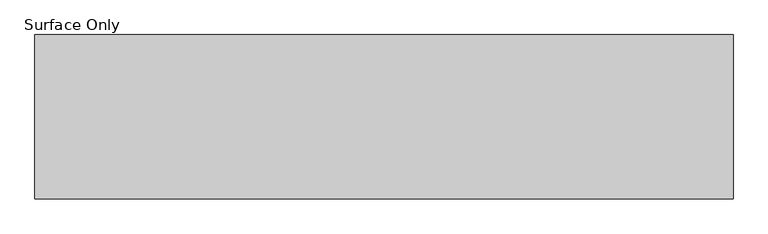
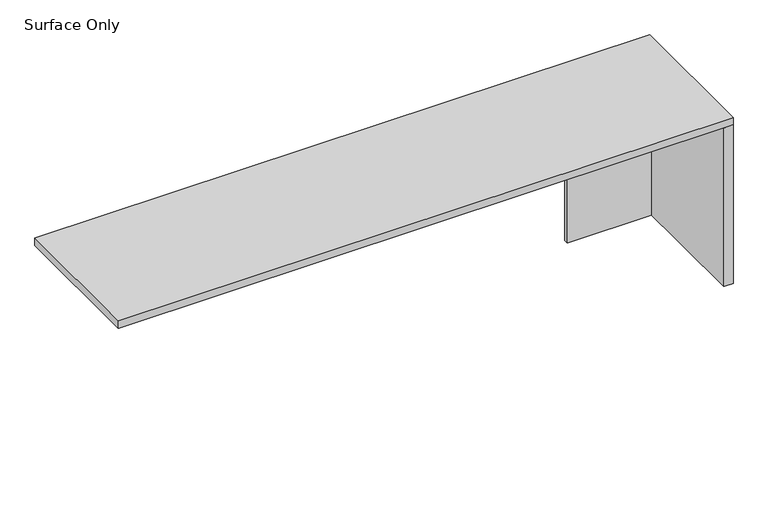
"""IFC4 building model written with IfcOpenShell, lengths in millimetres: furniture geometry, Haworth_Masters_Modular_Shell : Surface Only."""

from ifc_helpers import new_model, si_unit, frame, origin, origin_with_axes, place, context, project, spatial, polyline, outline, extrude, source, transform, mapped, element, save


def surface_only_265f41fe(model_context):
    return source(origin(), model_context, "Body", "SweptSolid", [
        extrude(outline(polyline([(2033.5875, -273.05), (2033.5875, -863.6), (1994.69375, -863.6), (1994.69375, -273.05), (2033.5875, -273.05)])), origin_with_axes(), (0.0, 0.0, 1.0), 708.025),
        extrude(outline(polyline([(1994.69375, -317.5), (1994.69375, -336.55), (1639.09375, -336.55), (1639.09375, -317.5), (1994.69375, -317.5)])), origin_with_axes(), (0.0, 0.0, 1.0), 708.025),
        extrude(outline(polyline([(-557.2125, -254.0), (2033.5875, -254.0), (2033.5875, -863.6), (-557.2125, -863.6), (-557.2125, -254.0)])), frame((0.0, 0.0, 708.025), z_axis=(0.0, 0.0, 1.0), x_axis=(1.0, 0.0, 0.0)), (0.0, 0.0, 1.0), 31.75),
    ])


if __name__ == "__main__":
    model = new_model("IFC4")
    model_context = context("Model", 3, world=origin())
    ifc_project = project(units=[si_unit("LENGTHUNIT", "METRE", prefix="MILLI")], contexts=[model_context])
    site = spatial("IfcSite", under=ifc_project)
    building = spatial("IfcBuilding", under=site)
    placement = place(None, origin())
    surface_only_shape = surface_only_265f41fe(model_context)
    element("IfcFurniture", 1, ObjectType="Haworth_Masters_Modular_Shell : Surface Only", at=placement, inside=building, context=model_context, shape_type="MappedRepresentation", body=[
        mapped(surface_only_shape, transform((0.0, 0.0, 0.0), x_axis=(1.0, 0.0, 0.0), y_axis=(0.0, 1.0, 0.0), z_axis=(0.0, 0.0, 1.0))),
    ])
    save(model, "model.ifc")
